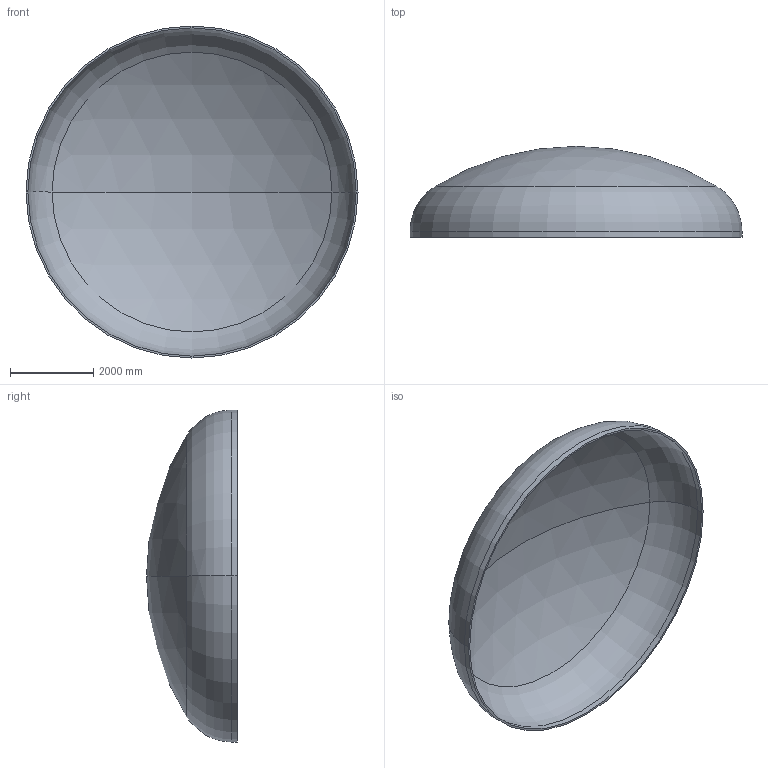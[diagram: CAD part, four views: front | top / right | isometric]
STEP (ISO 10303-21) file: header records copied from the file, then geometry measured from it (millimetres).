
FILE_DESCRIPTION (( 'STEP AP203' ), '1' );
FILE_NAME ('DIN 28013 Korbbogenform_-_Boden DIN 28013 - 8000 x 140 - I - s=46.step', '2016-07-04T11:01:56', ( '' ), ( '' ), 'SwSTEP 2.0', 'SolidWorks 2013', '' );
FILE_SCHEMA (( 'CONFIG_CONTROL_DESIGN' ));
Length unit declared in the file: millimetre
Products named in the file (1): DIN 28013 Korbbogenform_-_Boden DIN 28013 - 8000 x 140 - I - s=46
Bounding box: 8000 x 2191.83 x 8000 mm (x, y, z)
Volume: 3338127406.3 mm3; surface area: 146289807.5 mm2
Topology: 1 solids, 1 shells, 13 faces, 24 edges, 14 vertices
Faces by surface type: torus 4, cylinder 4, sphere 4, plane 1
Entity records: 407 total; most frequent: DIRECTION 72, CARTESIAN_POINT 52, ORIENTED_EDGE 48, AXIS2_PLACEMENT_3D 34, EDGE_CURVE 24, CIRCLE 20, VERTEX_POINT 14, EDGE_LOOP 14
